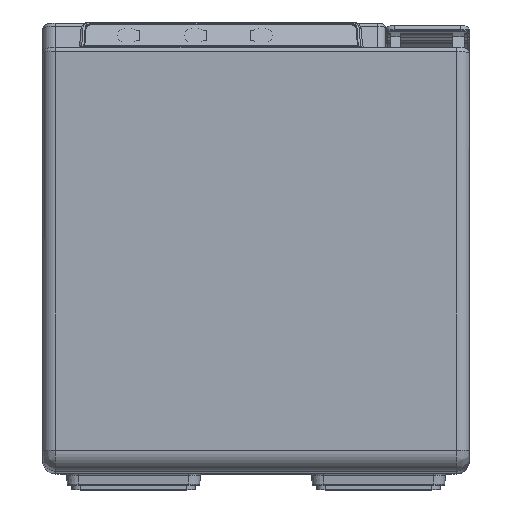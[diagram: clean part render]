
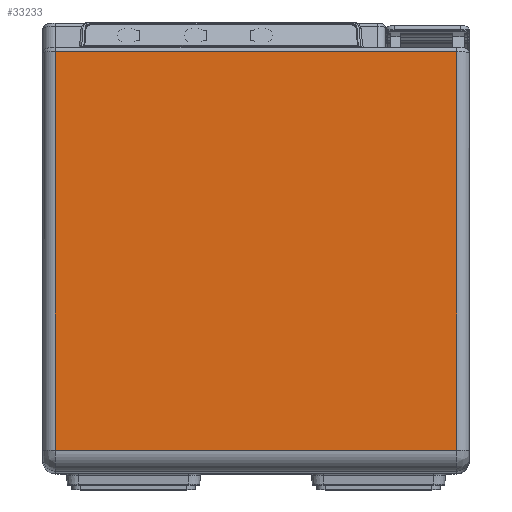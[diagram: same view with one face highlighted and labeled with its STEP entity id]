
A CAD part, top view. The second image highlights one B-rep face of the part: STEP entity #33233.
In plain terms, the highlighted planar face has unit normal (0, 0, 1).
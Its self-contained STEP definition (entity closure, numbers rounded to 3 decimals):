
#22670=CARTESIAN_POINT('',(27.,18.415,23.5));
#25222=DIRECTION('',(0.,-1.,0.));
#25223=VECTOR('',#25222,95.371);
#25224=CARTESIAN_POINT('',(27.,18.415,23.5));
#25225=LINE('',#25224,#25223);
#25226=DIRECTION('',(1.,0.,0.));
#25227=VECTOR('',#25226,96.);
#25228=CARTESIAN_POINT('',(-69.,-76.956,23.5));
#25229=LINE('',#25228,#25227);
#25230=DIRECTION('',(0.,1.,0.));
#25231=VECTOR('',#25230,95.371);
#25232=CARTESIAN_POINT('',(-69.,-76.956,23.5));
#25233=LINE('',#25232,#25231);
#25234=DIRECTION('',(-1.,0.,0.));
#25235=VECTOR('',#25234,96.);
#25236=CARTESIAN_POINT('',(27.,18.415,23.5));
#25237=LINE('',#25236,#25235);
#28760=CARTESIAN_POINT('',(27.,-76.956,23.5));
#28762=VERTEX_POINT('',#28760);
#28764=CARTESIAN_POINT('',(-69.,-76.956,23.5));
#28766=VERTEX_POINT('',#28764);
#28782=VERTEX_POINT('',#22670);
#28783=CARTESIAN_POINT('',(-69.,18.415,23.5));
#28784=VERTEX_POINT('',#28783);
#33220=CARTESIAN_POINT('',(-72.,19.5,23.5));
#33221=DIRECTION('',(0.,0.,1.));
#33222=DIRECTION('',(0.,-1.,0.));
#33223=AXIS2_PLACEMENT_3D('',#33220,#33221,#33222);
#33224=PLANE('',#33223);
#33225=ORIENTED_EDGE('',*,*,#30106,.T.);
#33227=ORIENTED_EDGE('',*,*,#33226,.F.);
#33229=ORIENTED_EDGE('',*,*,#33228,.T.);
#33230=ORIENTED_EDGE('',*,*,#33207,.F.);
#33231=EDGE_LOOP('',(#33225,#33227,#33229,#33230));
#33232=FACE_OUTER_BOUND('',#33231,.F.);
#30106=EDGE_CURVE('',#28782,#28762,#25225,.T.);
#33207=EDGE_CURVE('',#28782,#28784,#25237,.T.);
#33226=EDGE_CURVE('',#28766,#28762,#25229,.T.);
#33228=EDGE_CURVE('',#28766,#28784,#25233,.T.);
#33233=ADVANCED_FACE('',(#33232),#33224,.T.);
